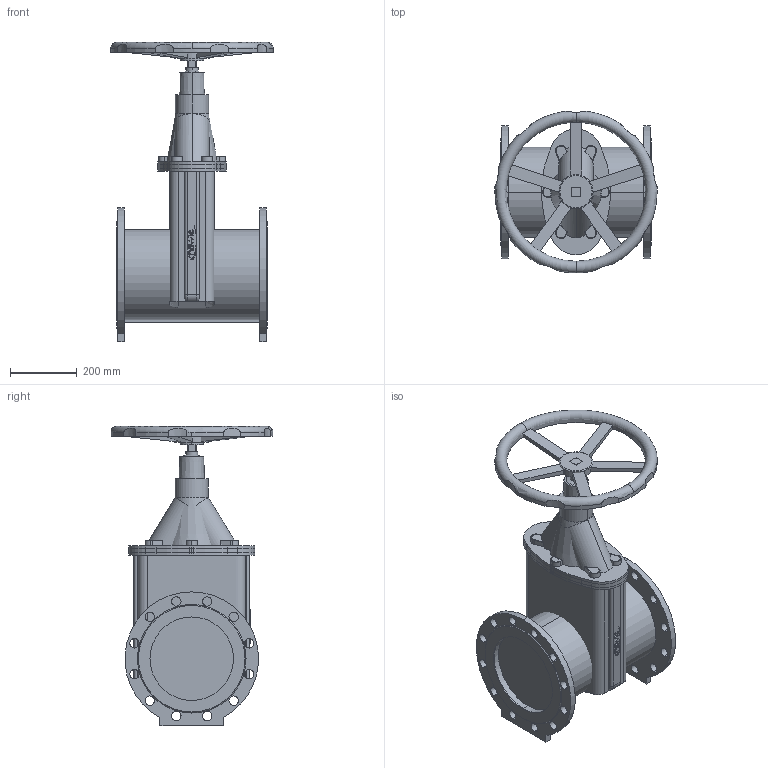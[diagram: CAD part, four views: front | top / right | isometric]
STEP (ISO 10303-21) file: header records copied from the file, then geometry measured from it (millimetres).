
FILE_DESCRIPTION(('STEP AP214'),'1');
FILE_NAME('S:/EK/USER/CAT6/3DHomepage/4700E2/4700E2-PN16-DN250-HANDRAD.STP','2012-04-23T12:42:10',(' '),(' '),'Spatial InterOp 3D',' ',' ');
FILE_SCHEMA(('automotive_design'));
Length unit declared in the file: millimetre
Products named in the file (57): 3D-Objekt
Bounding box: 486 x 484.36 x 895 mm (x, y, z)
Volume: 51765582.1 mm3; surface area: 2585208 mm2
Topology: 57 solids, 57 shells, 570 faces, 1361 edges, 907 vertices
Faces by surface type: plane 284, cylinder 262, cone 10, torus 10, bspline 4
Entity records: 23011 total; most frequent: CARTESIAN_POINT 3233, DIRECTION 3168, ORIENTED_EDGE 2722, EDGE_CURVE 1361, AXIS2_PLACEMENT_3D 1194, VERTEX_POINT 907, LINE 780, VECTOR 780
